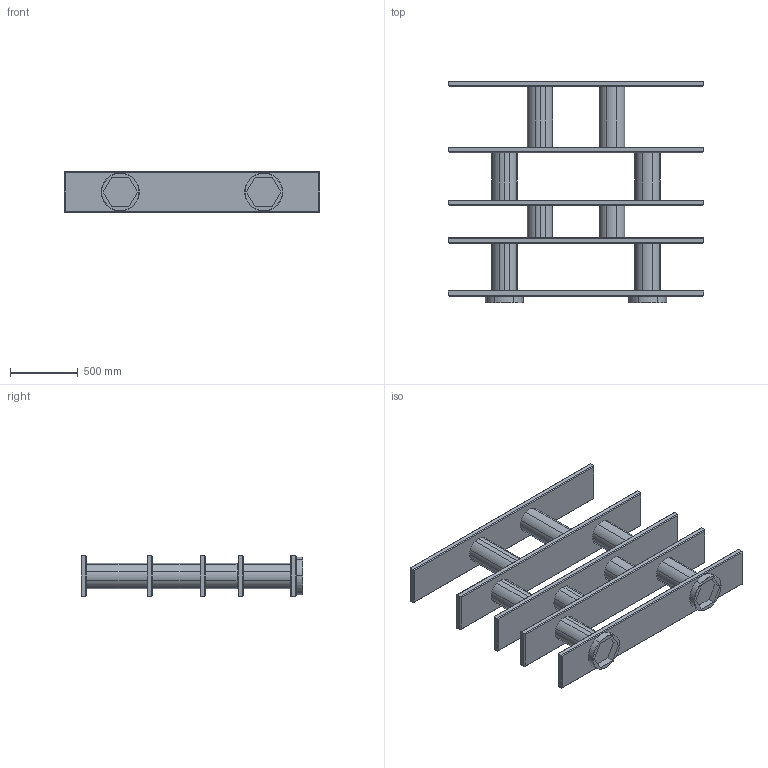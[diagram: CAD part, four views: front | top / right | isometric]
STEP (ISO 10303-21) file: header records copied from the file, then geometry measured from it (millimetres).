
FILE_DESCRIPTION (( 'STEP AP203' ), '1' );
FILE_NAME ('BLOK BOOKSHELF.STEP', '2025-08-29T11:02:08', ( '' ), ( '' ), 'SwSTEP 2.0', 'SolidWorks 2025', '' );
FILE_SCHEMA (( 'CONFIG_CONTROL_DESIGN' ));
Length unit declared in the file: millimetre
Products named in the file (2): Group1^polica za knjige BLOK_defeature; BLOK BOOKSHELF
Assembly tree (1 placements, depth 2):
  BLOK BOOKSHELF
    Group1^polica za knjige BLOK_defeature
Bounding box: 1890 x 1640.5 x 300 mm (x, y, z)
Volume: 194016641.5 mm3; surface area: 7808046.8 mm2
Topology: 1 solids, 1 shells, 315 faces, 752 edges, 456 vertices
Faces by surface type: cylinder 126, plane 103, cone 54, sphere 20, torus 12
Entity records: 9214 total; most frequent: DIRECTION 1694, CARTESIAN_POINT 1627, ORIENTED_EDGE 1464, EDGE_CURVE 732, AXIS2_PLACEMENT_3D 683, VERTEX_POINT 456, CIRCLE 364, EDGE_LOOP 360
